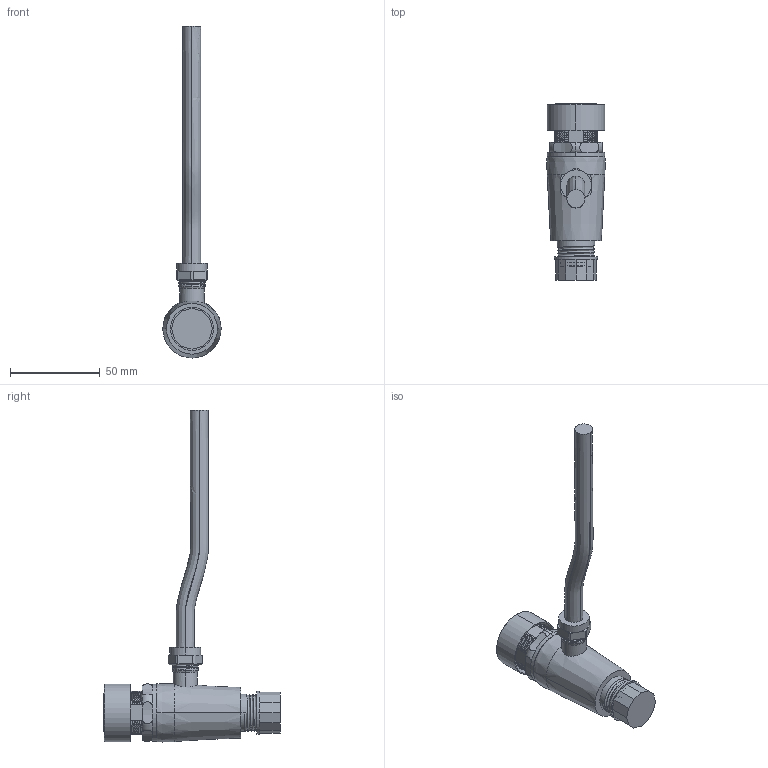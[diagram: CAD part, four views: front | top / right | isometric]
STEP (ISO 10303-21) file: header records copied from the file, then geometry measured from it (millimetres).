
FILE_DESCRIPTION (( 'STEP AP203' ), '1' );
FILE_NAME ('PM3160.STEP', '2023-01-31T06:59:19', ( '' ), ( '' ), 'SwSTEP 2.0', 'SolidWorks 2021', '' );
FILE_SCHEMA (( 'CONFIG_CONTROL_DESIGN' ));
Length unit declared in the file: millimetre
Products named in the file (1): PM3160
Bounding box: 32.53 x 98.23 x 184.75 mm (x, y, z)
Volume: 69470.1 mm3; surface area: 26851.1 mm2
Topology: 9 solids, 10 shells, 304 faces, 636 edges, 412 vertices
Faces by surface type: plane 204, cylinder 60, torus 18, bspline 16, cone 6
Entity records: 13194 total; most frequent: CARTESIAN_POINT 7106, ORIENTED_EDGE 1272, DIRECTION 1150, EDGE_CURVE 636, AXIS2_PLACEMENT_3D 437, VERTEX_POINT 412, EDGE_LOOP 370, ADVANCED_FACE 304
